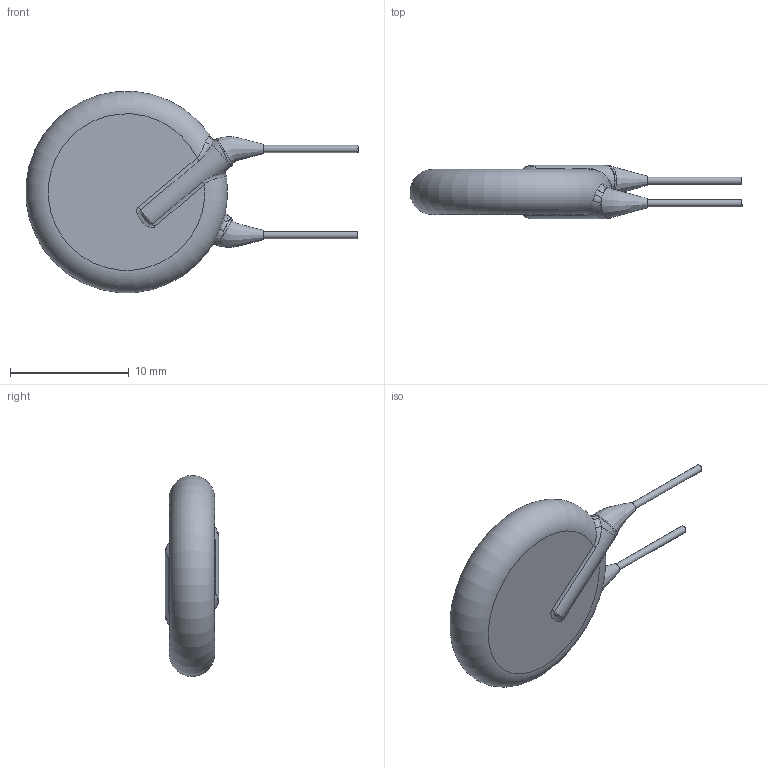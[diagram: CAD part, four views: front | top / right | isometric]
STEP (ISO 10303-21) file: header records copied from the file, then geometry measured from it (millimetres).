
FILE_DESCRIPTION(/* description */ (''),/* implementation_level */ '2;1');
FILE_NAME(/* name */ 'I:\Marketing\M6t1\3D-Models\Zchng-Werk-3\Upload for homepage\Roederstein\WYO\Y5U_250-440\WYO682MCMCD0KR\WYO682MCMCD0KR.stp',/* time_stamp */ '2018-03-20T16:00:45+01:00',/* author */ ('sheinrich'),/* organization */ (''),/* preprocessor_version */ 'ST-DEVELOPER v16.1',/* originating_system */ 'Autodesk Inventor 2016',/* authorisation */ '');
FILE_SCHEMA (('AUTOMOTIVE_DESIGN { 1 0 10303 214 3 1 1 }'));
Length unit declared in the file: centimetre
Products named in the file (1): WYO682MCMCD0KR
Bounding box: 27.97 x 4.5 x 16.94 mm (x, y, z)
Volume: 820.8 mm3; surface area: 639.5 mm2
Topology: 1 solids, 1 shells, 41 faces, 90 edges, 53 vertices
Faces by surface type: bspline 22, cylinder 8, plane 6, torus 5
Full cylindrical faces by diameter (mm): 0.6 x2
Entity records: 2035 total; most frequent: CARTESIAN_POINT 1204, ORIENTED_EDGE 172, DIRECTION 116, EDGE_CURVE 86, AXIS2_PLACEMENT_3D 54, VERTEX_POINT 52, EDGE_LOOP 46, B_SPLINE_CURVE_WITH_KNOTS 44
